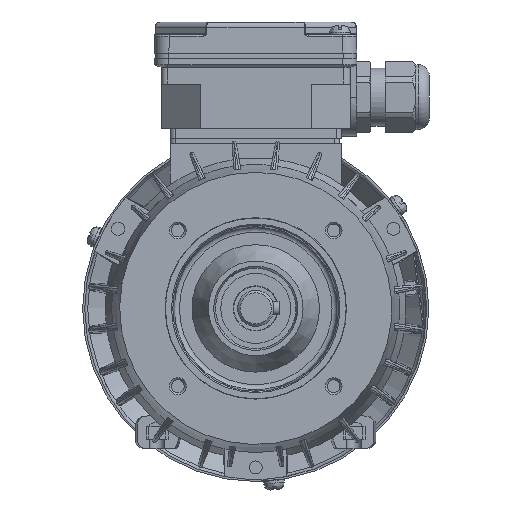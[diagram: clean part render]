
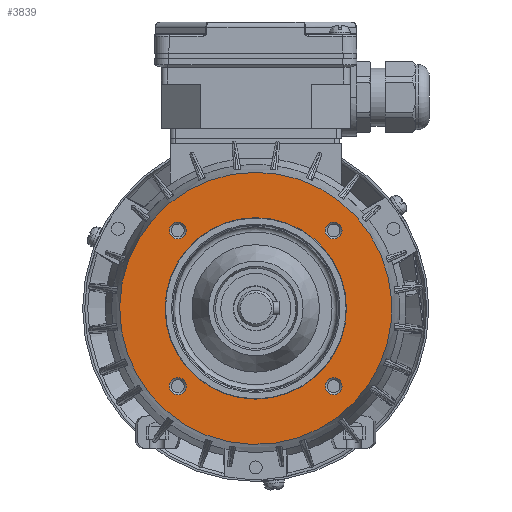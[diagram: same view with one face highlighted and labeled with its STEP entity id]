
A CAD part, front view. The second image highlights one B-rep face of the part: STEP entity #3839.
In plain terms, the highlighted planar face has unit normal (0, -1, 0) as drawn and (-1, 0, 0) by its records, which use the part's own axes.
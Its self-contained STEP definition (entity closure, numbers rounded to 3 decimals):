
#3839 = ADVANCED_FACE( '', ( #9222, #9223, #9224, #9225, #9226, #9227 ), #9228, .F. );
#9222 = FACE_BOUND( '', #22182, .T. );
#9223 = FACE_BOUND( '', #22183, .T. );
#9224 = FACE_BOUND( '', #22184, .T. );
#9225 = FACE_BOUND( '', #22185, .T. );
#9226 = FACE_BOUND( '', #22186, .T. );
#9227 = FACE_OUTER_BOUND( '', #22187, .T. );
#9228 = PLANE( '', #22188 );
#22182 = EDGE_LOOP( '', ( #66061 ) );
#22183 = EDGE_LOOP( '', ( #66062 ) );
#22184 = EDGE_LOOP( '', ( #66063 ) );
#22185 = EDGE_LOOP( '', ( #66064 ) );
#22186 = EDGE_LOOP( '', ( #66065 ) );
#22187 = EDGE_LOOP( '', ( #66066 ) );
#22188 = AXIS2_PLACEMENT_3D( '', #66067, #66068, #66069 );
#66061 = ORIENTED_EDGE( '', *, *, #85614, .T. );
#66062 = ORIENTED_EDGE( '', *, *, #85615, .T. );
#66063 = ORIENTED_EDGE( '', *, *, #85616, .T. );
#66064 = ORIENTED_EDGE( '', *, *, #85617, .T. );
#66065 = ORIENTED_EDGE( '', *, *, #85618, .F. );
#66066 = ORIENTED_EDGE( '', *, *, #85619, .T. );
#66067 = CARTESIAN_POINT( '', ( 2.5, 0., 52.5 ) );
#66068 = DIRECTION( '', ( 1., 0., 0. ) );
#66069 = DIRECTION( '', ( 0., 0., -1. ) );
#85614 = EDGE_CURVE( '', #95745, #95745, #95746, .T. );
#85615 = EDGE_CURVE( '', #95747, #95747, #95748, .T. );
#85616 = EDGE_CURVE( '', #95749, #95749, #95750, .T. );
#85617 = EDGE_CURVE( '', #95751, #95751, #95752, .T. );
#85618 = EDGE_CURVE( '', #95753, #95753, #95754, .T. );
#85619 = EDGE_CURVE( '', #95755, #95755, #95756, .T. );
#95745 = VERTEX_POINT( '', #117075 );
#95746 = CIRCLE( '', #117076, 3.259 );
#95747 = VERTEX_POINT( '', #117077 );
#95748 = CIRCLE( '', #117078, 3.259 );
#95749 = VERTEX_POINT( '', #117079 );
#95750 = CIRCLE( '', #117080, 3.259 );
#95751 = VERTEX_POINT( '', #117081 );
#95752 = CIRCLE( '', #117082, 3.259 );
#95753 = VERTEX_POINT( '', #117083 );
#95754 = CIRCLE( '', #117084, 35. );
#95755 = VERTEX_POINT( '', #117085 );
#95756 = CIRCLE( '', #117086, 52.5 );
#117075 = CARTESIAN_POINT( '', ( 2.5, 26.794, 30.052 ) );
#117076 = AXIS2_PLACEMENT_3D( '', #153366, #153367, #153368 );
#117077 = CARTESIAN_POINT( '', ( 2.5, 26.794, -30.052 ) );
#117078 = AXIS2_PLACEMENT_3D( '', #153369, #153370, #153371 );
#117079 = CARTESIAN_POINT( '', ( 2.5, -33.311, -30.052 ) );
#117080 = AXIS2_PLACEMENT_3D( '', #153372, #153373, #153374 );
#117081 = CARTESIAN_POINT( '', ( 2.5, -33.311, 30.052 ) );
#117082 = AXIS2_PLACEMENT_3D( '', #153375, #153376, #153377 );
#117083 = CARTESIAN_POINT( '', ( 2.5, 0., 35. ) );
#117084 = AXIS2_PLACEMENT_3D( '', #153378, #153379, #153380 );
#117085 = CARTESIAN_POINT( '', ( 2.5, 0., 52.5 ) );
#117086 = AXIS2_PLACEMENT_3D( '', #153381, #153382, #153383 );
#153366 = CARTESIAN_POINT( '', ( 2.5, 30.052, 30.052 ) );
#153367 = DIRECTION( '', ( 1., 0., 0. ) );
#153368 = DIRECTION( '', ( 0., -1., 0. ) );
#153369 = CARTESIAN_POINT( '', ( 2.5, 30.052, -30.052 ) );
#153370 = DIRECTION( '', ( 1., 0., 0. ) );
#153371 = DIRECTION( '', ( 0., -1., 0. ) );
#153372 = CARTESIAN_POINT( '', ( 2.5, -30.052, -30.052 ) );
#153373 = DIRECTION( '', ( 1., 0., 0. ) );
#153374 = DIRECTION( '', ( 0., -1., 0. ) );
#153375 = CARTESIAN_POINT( '', ( 2.5, -30.052, 30.052 ) );
#153376 = DIRECTION( '', ( 1., 0., 0. ) );
#153377 = DIRECTION( '', ( 0., -1., 0. ) );
#153378 = CARTESIAN_POINT( '', ( 2.5, 0., 0. ) );
#153379 = DIRECTION( '', ( -1., 0., 0. ) );
#153380 = DIRECTION( '', ( 0., 0., 1. ) );
#153381 = CARTESIAN_POINT( '', ( 2.5, 0., 0. ) );
#153382 = DIRECTION( '', ( -1., 0., 0. ) );
#153383 = DIRECTION( '', ( 0., 0., 1. ) );
